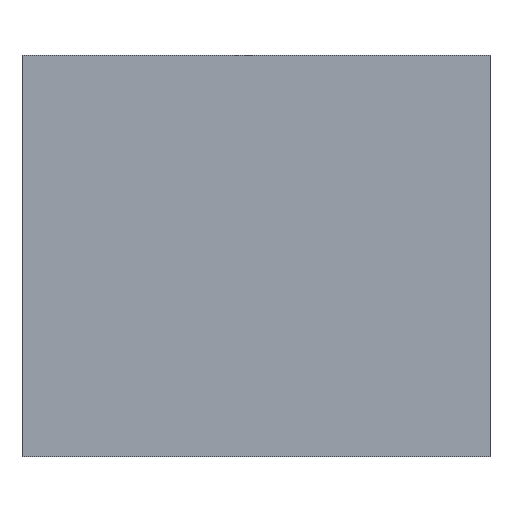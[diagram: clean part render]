
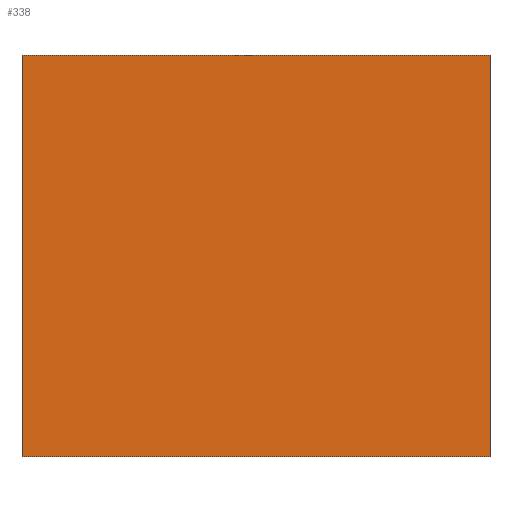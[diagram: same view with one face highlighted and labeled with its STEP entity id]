
A CAD part, top view. The second image highlights one B-rep face of the part: STEP entity #338.
In plain terms, the highlighted planar face has unit normal (0, 0, 1).
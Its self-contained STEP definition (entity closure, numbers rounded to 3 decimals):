
#24 = VERTEX_POINT('',#25);
#25 = CARTESIAN_POINT('',(510.,-150.,128.));
#32 = PLANE('',#33);
#33 = AXIS2_PLACEMENT_3D('',#34,#35,#36);
#34 = CARTESIAN_POINT('',(510.,-150.,125.));
#35 = DIRECTION('',(1.,0.,0.));
#36 = DIRECTION('',(0.,0.,1.));
#44 = PLANE('',#45);
#45 = AXIS2_PLACEMENT_3D('',#46,#47,#48);
#46 = CARTESIAN_POINT('',(510.,-150.,125.));
#47 = DIRECTION('',(0.,1.,0.));
#48 = DIRECTION('',(0.,0.,1.));
#85 = VERTEX_POINT('',#86);
#86 = CARTESIAN_POINT('',(510.,150.,128.));
#100 = PLANE('',#101);
#101 = AXIS2_PLACEMENT_3D('',#102,#103,#104);
#102 = CARTESIAN_POINT('',(510.,150.,125.));
#103 = DIRECTION('',(0.,1.,0.));
#104 = DIRECTION('',(0.,0.,1.));
#112 = EDGE_CURVE('',#24,#85,#113,.T.);
#113 = SURFACE_CURVE('',#114,(#118,#125),.PCURVE_S1.);
#114 = LINE('',#115,#116);
#115 = CARTESIAN_POINT('',(510.,-150.,128.));
#116 = VECTOR('',#117,1.);
#117 = DIRECTION('',(0.,1.,0.));
#118 = PCURVE('',#32,#119);
#119 = DEFINITIONAL_REPRESENTATION('',(#120),#124);
#120 = LINE('',#121,#122);
#121 = CARTESIAN_POINT('',(3.,0.));
#122 = VECTOR('',#123,1.);
#123 = DIRECTION('',(0.,-1.));
#124 = ( GEOMETRIC_REPRESENTATION_CONTEXT(2) 
PARAMETRIC_REPRESENTATION_CONTEXT() REPRESENTATION_CONTEXT('2D SPACE',''
  ) );
#125 = PCURVE('',#126,#131);
#126 = PLANE('',#127);
#127 = AXIS2_PLACEMENT_3D('',#128,#129,#130);
#128 = CARTESIAN_POINT('',(510.,-150.,128.));
#129 = DIRECTION('',(0.,0.,1.));
#130 = DIRECTION('',(1.,0.,0.));
#131 = DEFINITIONAL_REPRESENTATION('',(#132),#136);
#132 = LINE('',#133,#134);
#133 = CARTESIAN_POINT('',(0.,0.));
#134 = VECTOR('',#135,1.);
#135 = DIRECTION('',(0.,1.));
#136 = ( GEOMETRIC_REPRESENTATION_CONTEXT(2) 
PARAMETRIC_REPRESENTATION_CONTEXT() REPRESENTATION_CONTEXT('2D SPACE',''
  ) );
#144 = VERTEX_POINT('',#145);
#145 = CARTESIAN_POINT('',(860.,-150.,128.));
#152 = PLANE('',#153);
#153 = AXIS2_PLACEMENT_3D('',#154,#155,#156);
#154 = CARTESIAN_POINT('',(860.,-150.,125.));
#155 = DIRECTION('',(1.,0.,0.));
#156 = DIRECTION('',(0.,0.,1.));
#195 = VERTEX_POINT('',#196);
#196 = CARTESIAN_POINT('',(860.,150.,128.));
#217 = EDGE_CURVE('',#144,#195,#218,.T.);
#218 = SURFACE_CURVE('',#219,(#223,#230),.PCURVE_S1.);
#219 = LINE('',#220,#221);
#220 = CARTESIAN_POINT('',(860.,-150.,128.));
#221 = VECTOR('',#222,1.);
#222 = DIRECTION('',(0.,1.,0.));
#223 = PCURVE('',#152,#224);
#224 = DEFINITIONAL_REPRESENTATION('',(#225),#229);
#225 = LINE('',#226,#227);
#226 = CARTESIAN_POINT('',(3.,0.));
#227 = VECTOR('',#228,1.);
#228 = DIRECTION('',(0.,-1.));
#229 = ( GEOMETRIC_REPRESENTATION_CONTEXT(2) 
PARAMETRIC_REPRESENTATION_CONTEXT() REPRESENTATION_CONTEXT('2D SPACE',''
  ) );
#230 = PCURVE('',#126,#231);
#231 = DEFINITIONAL_REPRESENTATION('',(#232),#236);
#232 = LINE('',#233,#234);
#233 = CARTESIAN_POINT('',(350.,0.));
#234 = VECTOR('',#235,1.);
#235 = DIRECTION('',(0.,1.));
#236 = ( GEOMETRIC_REPRESENTATION_CONTEXT(2) 
PARAMETRIC_REPRESENTATION_CONTEXT() REPRESENTATION_CONTEXT('2D SPACE',''
  ) );
#263 = EDGE_CURVE('',#24,#144,#264,.T.);
#264 = SURFACE_CURVE('',#265,(#269,#276),.PCURVE_S1.);
#265 = LINE('',#266,#267);
#266 = CARTESIAN_POINT('',(510.,-150.,128.));
#267 = VECTOR('',#268,1.);
#268 = DIRECTION('',(1.,0.,0.));
#269 = PCURVE('',#44,#270);
#270 = DEFINITIONAL_REPRESENTATION('',(#271),#275);
#271 = LINE('',#272,#273);
#272 = CARTESIAN_POINT('',(3.,0.));
#273 = VECTOR('',#274,1.);
#274 = DIRECTION('',(0.,1.));
#275 = ( GEOMETRIC_REPRESENTATION_CONTEXT(2) 
PARAMETRIC_REPRESENTATION_CONTEXT() REPRESENTATION_CONTEXT('2D SPACE',''
  ) );
#276 = PCURVE('',#126,#277);
#277 = DEFINITIONAL_REPRESENTATION('',(#278),#282);
#278 = LINE('',#279,#280);
#279 = CARTESIAN_POINT('',(0.,0.));
#280 = VECTOR('',#281,1.);
#281 = DIRECTION('',(1.,0.));
#282 = ( GEOMETRIC_REPRESENTATION_CONTEXT(2) 
PARAMETRIC_REPRESENTATION_CONTEXT() REPRESENTATION_CONTEXT('2D SPACE',''
  ) );
#310 = EDGE_CURVE('',#85,#195,#311,.T.);
#311 = SURFACE_CURVE('',#312,(#316,#323),.PCURVE_S1.);
#312 = LINE('',#313,#314);
#313 = CARTESIAN_POINT('',(510.,150.,128.));
#314 = VECTOR('',#315,1.);
#315 = DIRECTION('',(1.,0.,0.));
#316 = PCURVE('',#100,#317);
#317 = DEFINITIONAL_REPRESENTATION('',(#318),#322);
#318 = LINE('',#319,#320);
#319 = CARTESIAN_POINT('',(3.,0.));
#320 = VECTOR('',#321,1.);
#321 = DIRECTION('',(0.,1.));
#322 = ( GEOMETRIC_REPRESENTATION_CONTEXT(2) 
PARAMETRIC_REPRESENTATION_CONTEXT() REPRESENTATION_CONTEXT('2D SPACE',''
  ) );
#323 = PCURVE('',#126,#324);
#324 = DEFINITIONAL_REPRESENTATION('',(#325),#329);
#325 = LINE('',#326,#327);
#326 = CARTESIAN_POINT('',(0.,300.));
#327 = VECTOR('',#328,1.);
#328 = DIRECTION('',(1.,0.));
#329 = ( GEOMETRIC_REPRESENTATION_CONTEXT(2) 
PARAMETRIC_REPRESENTATION_CONTEXT() REPRESENTATION_CONTEXT('2D SPACE',''
  ) );
#338 = ADVANCED_FACE('',(#339),#126,.T.);
#339 = FACE_BOUND('',#340,.T.);
#340 = EDGE_LOOP('',(#341,#342,#343,#344));
#341 = ORIENTED_EDGE('',*,*,#112,.F.);
#342 = ORIENTED_EDGE('',*,*,#263,.T.);
#343 = ORIENTED_EDGE('',*,*,#217,.T.);
#344 = ORIENTED_EDGE('',*,*,#310,.F.);
